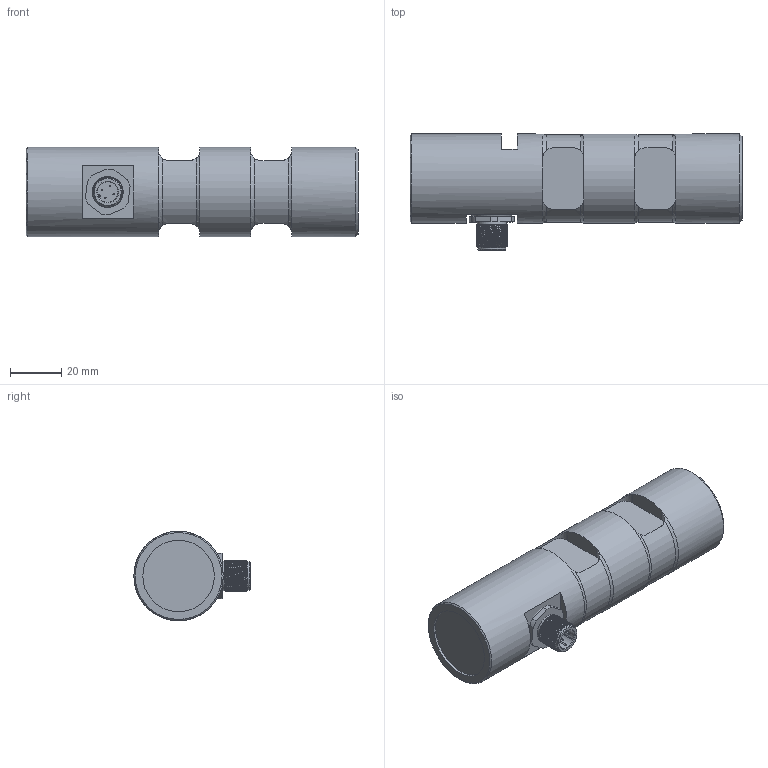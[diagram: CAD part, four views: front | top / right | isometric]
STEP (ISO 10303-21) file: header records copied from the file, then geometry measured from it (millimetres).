
FILE_DESCRIPTION(/* description */ ('Alibre Inc.'),/* implementation_level */ '2;1');
FILE_NAME(/* name */ 'export-B20BCA97-0421-4CC7-A7F5-21A247FA440D',/* time_stamp */ '2019-07-01T09:29:41+02:00',/* author */ (''),/* organization */ (''),/* preprocessor_version */ 'ST-DEVELOPER v17',/* originating_system */ 'Alibre',/* authorisation */ '');
FILE_SCHEMA (('CONFIG_CONTROL_DESIGN'));
Length unit declared in the file: millimetre
Products named in the file (3): ID_1; ID_2
Bounding box: 130 x 45.5 x 35 mm (x, y, z)
Volume: 175852.2 mm3; surface area: 92447.8 mm2
Topology: 6 solids, 7 shells, 168 faces, 385 edges, 239 vertices
Faces by surface type: plane 71, cylinder 56, bspline 23, torus 10, cone 8
Full cylindrical faces by diameter (mm): 0.5 x8, 8 x2, 10 x1, 11 x1, 11.5 x1, 13 x2, 14.5 x1, 28 x1, 35 x3
Entity records: 15153 total; most frequent: CARTESIAN_POINT 11852, ORIENTED_EDGE 698, DIRECTION 430, EDGE_CURVE 342, VERTEX_POINT 224, EDGE_LOOP 216, FACE_BOUND 216, AXIS2_PLACEMENT_3D 190
